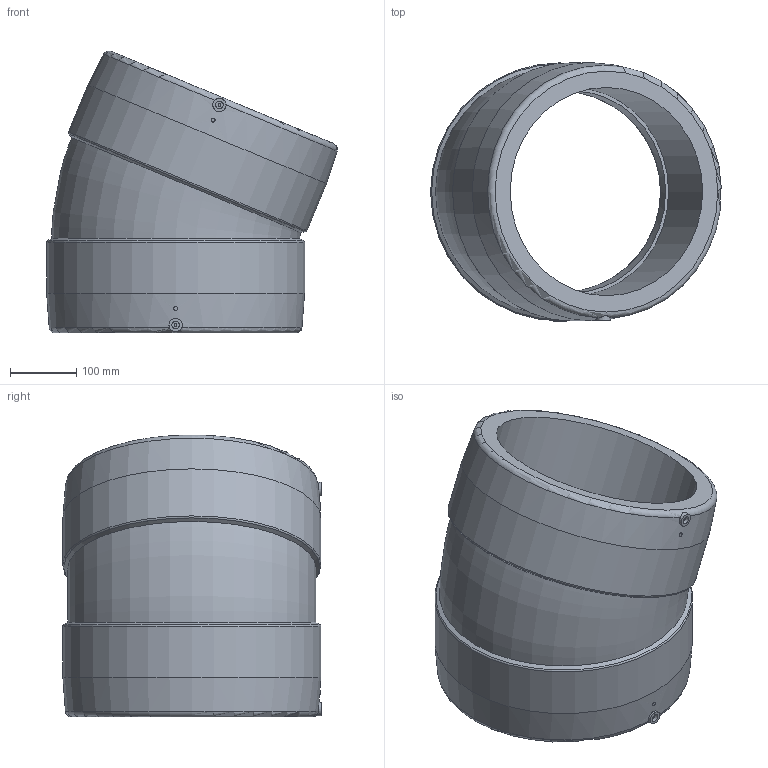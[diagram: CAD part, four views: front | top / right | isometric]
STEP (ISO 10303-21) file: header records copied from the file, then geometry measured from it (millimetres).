
FILE_DESCRIPTION(/* description */ ('Unknown'),/* implementation_level */ '2;1');
FILE_NAME(/* name */ 'GE2250P315C',/* time_stamp */ '2020-11-30T17:02:51+01:00',/* author */ ('Unknown'),/* organization */ ('Unknown'),/* preprocessor_version */ 'ST-DEVELOPER v16.7',/* originating_system */ 'Solid Edge',/* authorisation */ 'Unknown');
FILE_SCHEMA (('AUTOMOTIVE_DESIGN {1 0 10303 214 3 1 1}'));
Length unit declared in the file: millimetre
Products named in the file (1): GE2250P315C
Bounding box: 439.54 x 390.5 x 426.29 mm (x, y, z)
Volume: 14662912.3 mm3; surface area: 908306.1 mm2
Topology: 1 solids, 1 shells, 40 faces, 88 edges, 58 vertices
Faces by surface type: cylinder 14, plane 12, torus 8, cone 6
Full cylindrical faces by diameter (mm): 4 x2, 6 x2, 11.5 x2, 305 x2, 315 x2, 390 x2
Entity records: 1038 total; most frequent: CARTESIAN_POINT 314, DIRECTION 148, ORIENTED_EDGE 102, AXIS2_PLACEMENT_3D 74, EDGE_LOOP 71, FACE_BOUND 71, EDGE_CURVE 51, VERTEX_POINT 46
